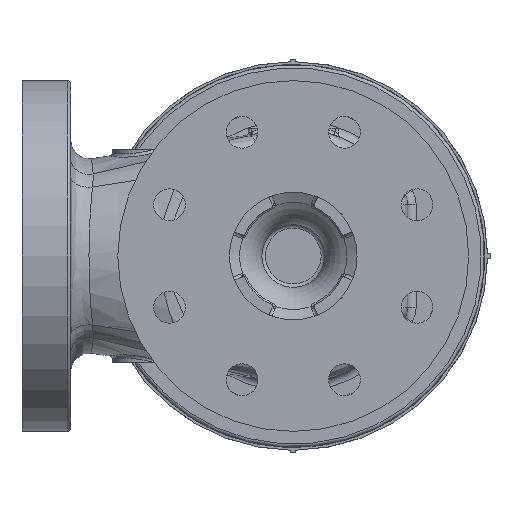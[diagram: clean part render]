
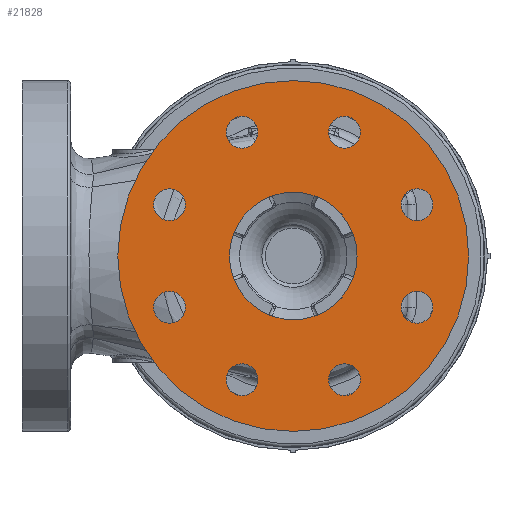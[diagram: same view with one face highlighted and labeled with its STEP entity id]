
A CAD part, front view. The second image highlights one B-rep face of the part: STEP entity #21828.
In plain terms, the highlighted planar face has unit normal (0, -1, 0).
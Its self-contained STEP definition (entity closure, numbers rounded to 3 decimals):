
#4127=FACE_BOUND('',#6266,.T.);
#4128=FACE_BOUND('',#6267,.T.);
#4129=FACE_BOUND('',#6268,.T.);
#4130=FACE_BOUND('',#6269,.T.);
#4131=FACE_BOUND('',#6270,.T.);
#4132=FACE_BOUND('',#6271,.T.);
#4133=FACE_BOUND('',#6272,.T.);
#4134=FACE_BOUND('',#6273,.T.);
#4135=FACE_BOUND('',#6274,.T.);
#4867=FACE_OUTER_BOUND('',#6265,.T.);
#6265=EDGE_LOOP('',(#17257));
#6266=EDGE_LOOP('',(#17258));
#6267=EDGE_LOOP('',(#17259));
#6268=EDGE_LOOP('',(#17260));
#6269=EDGE_LOOP('',(#17261));
#6270=EDGE_LOOP('',(#17262));
#6271=EDGE_LOOP('',(#17263));
#6272=EDGE_LOOP('',(#17264));
#6273=EDGE_LOOP('',(#17265));
#6274=EDGE_LOOP('',(#17266));
#7489=CIRCLE('',#23574,104.775);
#7490=CIRCLE('',#23575,9.5);
#7491=CIRCLE('',#23576,9.5);
#7492=CIRCLE('',#23577,9.5);
#7493=CIRCLE('',#23578,9.5);
#7494=CIRCLE('',#23579,9.5);
#7495=CIRCLE('',#23580,9.5);
#7496=CIRCLE('',#23581,9.5);
#7497=CIRCLE('',#23582,9.5);
#7498=CIRCLE('',#23583,38.1);
#9352=VERTEX_POINT('',#40589);
#9353=VERTEX_POINT('',#40591);
#9354=VERTEX_POINT('',#40593);
#9355=VERTEX_POINT('',#40595);
#9356=VERTEX_POINT('',#40597);
#9357=VERTEX_POINT('',#40599);
#9358=VERTEX_POINT('',#40601);
#9359=VERTEX_POINT('',#40603);
#9360=VERTEX_POINT('',#40605);
#9361=VERTEX_POINT('',#40607);
#12188=EDGE_CURVE('',#9352,#9352,#7489,.T.);
#12189=EDGE_CURVE('',#9353,#9353,#7490,.T.);
#12190=EDGE_CURVE('',#9354,#9354,#7491,.T.);
#12191=EDGE_CURVE('',#9355,#9355,#7492,.T.);
#12192=EDGE_CURVE('',#9356,#9356,#7493,.T.);
#12193=EDGE_CURVE('',#9357,#9357,#7494,.T.);
#12194=EDGE_CURVE('',#9358,#9358,#7495,.T.);
#12195=EDGE_CURVE('',#9359,#9359,#7496,.T.);
#12196=EDGE_CURVE('',#9360,#9360,#7497,.T.);
#12197=EDGE_CURVE('',#9361,#9361,#7498,.T.);
#17257=ORIENTED_EDGE('',*,*,#12188,.F.);
#17258=ORIENTED_EDGE('',*,*,#12189,.T.);
#17259=ORIENTED_EDGE('',*,*,#12190,.T.);
#17260=ORIENTED_EDGE('',*,*,#12191,.T.);
#17261=ORIENTED_EDGE('',*,*,#12192,.T.);
#17262=ORIENTED_EDGE('',*,*,#12193,.T.);
#17263=ORIENTED_EDGE('',*,*,#12194,.T.);
#17264=ORIENTED_EDGE('',*,*,#12195,.T.);
#17265=ORIENTED_EDGE('',*,*,#12196,.T.);
#17266=ORIENTED_EDGE('',*,*,#12197,.T.);
#20958=PLANE('',#23573);
#21828=ADVANCED_FACE('',(#4867,#4127,#4128,#4129,#4130,#4131,#4132,#4133,
#4134,#4135),#20958,.T.);
#23573=AXIS2_PLACEMENT_3D('',#40588,#27139,#27140);
#23574=AXIS2_PLACEMENT_3D('',#40590,#27141,#27142);
#23575=AXIS2_PLACEMENT_3D('',#40592,#27143,#27144);
#23576=AXIS2_PLACEMENT_3D('',#40594,#27145,#27146);
#23577=AXIS2_PLACEMENT_3D('',#40596,#27147,#27148);
#23578=AXIS2_PLACEMENT_3D('',#40598,#27149,#27150);
#23579=AXIS2_PLACEMENT_3D('',#40600,#27151,#27152);
#23580=AXIS2_PLACEMENT_3D('',#40602,#27153,#27154);
#23581=AXIS2_PLACEMENT_3D('',#40604,#27155,#27156);
#23582=AXIS2_PLACEMENT_3D('',#40606,#27157,#27158);
#23583=AXIS2_PLACEMENT_3D('',#40608,#27159,#27160);
#27139=DIRECTION('center_axis',(0.,-1.,0.));
#27140=DIRECTION('ref_axis',(0.,0.,
1.));
#27141=DIRECTION('center_axis',(0.,1.,0.));
#27142=DIRECTION('ref_axis',(1.,0.,0.));
#27143=DIRECTION('center_axis',(0.,1.,0.));
#27144=DIRECTION('ref_axis',(-0.707,0.,-0.707));
#27145=DIRECTION('center_axis',(0.,1.,0.));
#27146=DIRECTION('ref_axis',(0.,0.,
-1.));
#27147=DIRECTION('center_axis',(0.,1.,0.));
#27148=DIRECTION('ref_axis',(0.707,0.,-0.707));
#27149=DIRECTION('center_axis',(0.,1.,0.));
#27150=DIRECTION('ref_axis',(1.,0.,0.));
#27151=DIRECTION('center_axis',(0.,1.,0.));
#27152=DIRECTION('ref_axis',(0.707,0.,0.707));
#27153=DIRECTION('center_axis',(0.,1.,0.));
#27154=DIRECTION('ref_axis',(0.,0.,
1.));
#27155=DIRECTION('center_axis',(0.,1.,0.));
#27156=DIRECTION('ref_axis',(-0.707,0.,0.707));
#27157=DIRECTION('center_axis',(0.,1.,0.));
#27158=DIRECTION('ref_axis',(-1.,0.,0.));
#27159=DIRECTION('center_axis',(0.,1.,0.));
#27160=DIRECTION('ref_axis',(1.,0.,0.));
#40588=CARTESIAN_POINT('Origin',(55.,-111.,0.));
#40589=CARTESIAN_POINT('',(-104.775,-111.,0.));
#40590=CARTESIAN_POINT('Origin',(0.,-111.,0.));
#40591=CARTESIAN_POINT('',(80.628,-111.,-23.897));
#40592=CARTESIAN_POINT('Origin',(73.91,-111.,-30.615));
#40593=CARTESIAN_POINT('',(73.91,-111.,40.115));
#40594=CARTESIAN_POINT('Origin',(73.91,-111.,30.615));
#40595=CARTESIAN_POINT('',(23.897,-111.,80.628));
#40596=CARTESIAN_POINT('Origin',(30.615,-111.,73.91));
#40597=CARTESIAN_POINT('',(-40.115,-111.,73.91));
#40598=CARTESIAN_POINT('Origin',(-30.615,-111.,73.91));
#40599=CARTESIAN_POINT('',(-80.628,-111.,23.897));
#40600=CARTESIAN_POINT('Origin',(-73.91,-111.,30.615));
#40601=CARTESIAN_POINT('',(-73.91,-111.,-40.115));
#40602=CARTESIAN_POINT('Origin',(-73.91,-111.,-30.615));
#40603=CARTESIAN_POINT('',(-23.897,-111.,-80.628));
#40604=CARTESIAN_POINT('Origin',(-30.615,-111.,-73.91));
#40605=CARTESIAN_POINT('',(40.115,-111.,-73.91));
#40606=CARTESIAN_POINT('Origin',(30.615,-111.,-73.91));
#40607=CARTESIAN_POINT('',(-38.1,-111.,0.));
#40608=CARTESIAN_POINT('Origin',(0.,-111.,0.));
